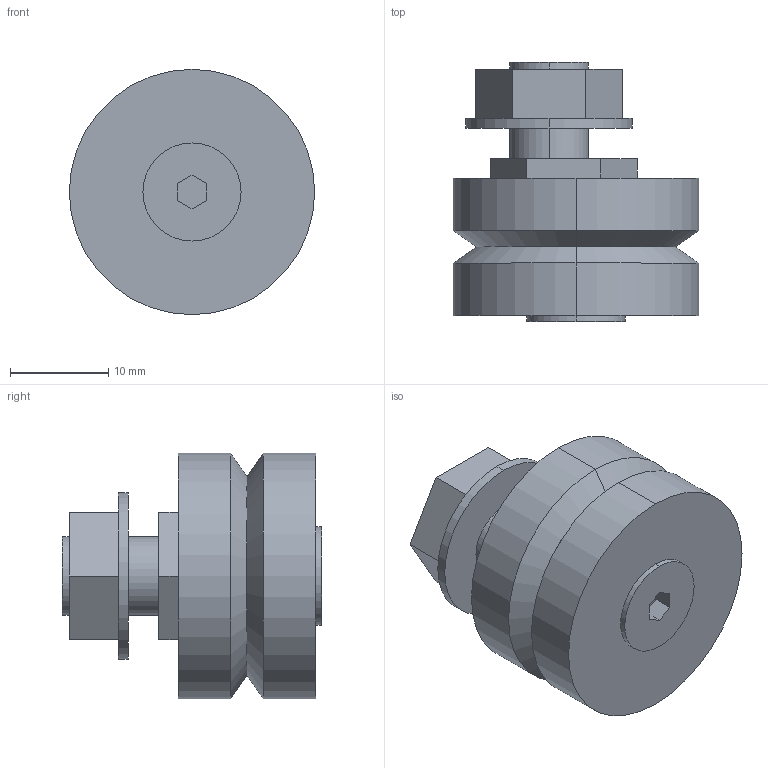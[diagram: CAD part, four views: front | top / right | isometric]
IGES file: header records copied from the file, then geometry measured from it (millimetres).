
Start section: 3D InterOp IGES (v. 2019 1.0.2), Spatial Corp. Copyright (c) 1999-2017.
Global section: file name: SJ 25 DE.igs; native system: Spatial Corp.; preprocessor: 3D InterOp GENERIC/IGES 3.0; author: Noname; organization: Noname; date: 20220628.165357; units: millimetre
Bounding box: 25 x 26.4 x 25 mm (x, y, z)
Surface area: 3120.2 mm2 (no closed solid volume)
Topology: 0 solids, 0 shells, 50 faces, 228 edges, 228 vertices
Faces by surface type: extrusion 34, revolution 16
